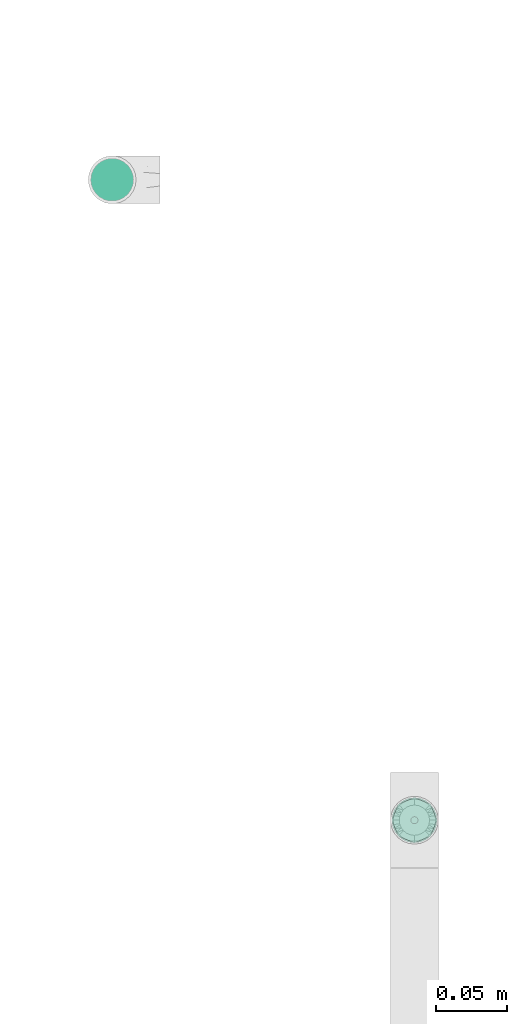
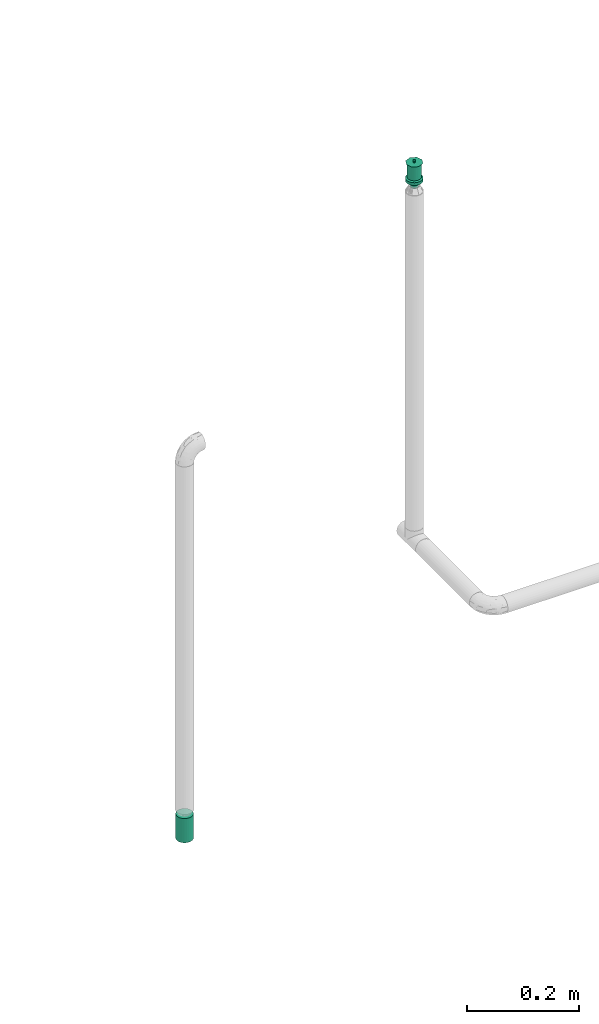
# One storey, part 27 of 94: 2 flow terminals.
"""IFC2X3 building model written with IfcOpenShell, lengths in millimetres."""

from ifc_helpers import new_model, entity, si_unit, converted_unit, derived_unit, direction, frame, origin_with_axes, place, context, subcontext, project, spatial, open_shell, surface_model, source, transform, mapped, type_object, element, save


model = new_model("IFC2X3")

# Units and contexts
model_context = context("Model", 3, precision=0.01, world=frame((0.0, 4.29681676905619e-09, 0.0)), true_north=direction((4.01073788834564e-13, 1.0)))
plan_context = context("Plan", 3, precision=0.01, world=frame((0.0, 4.29681676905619e-09, 0.0)), true_north=direction((4.01073788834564e-13, 1.0)))
body_context = subcontext(model_context, "Body", "Model", "MODEL_VIEW")
ifc_project = project(units=[converted_unit("PLANEANGLEUNIT", "DEGREE", entity("IfcPositiveLengthMeasure", 0.0174532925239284), si_unit("PLANEANGLEUNIT", "RADIAN"), dimensions=[0, 0, 0, 0, 0, 0, 0]), si_unit("AREAUNIT", "SQUARE_METRE"), si_unit("LENGTHUNIT", "METRE", prefix="MILLI"), si_unit("MASSUNIT", "GRAM", prefix="KILO"), si_unit("POWERUNIT", "WATT"), si_unit("PRESSUREUNIT", "PASCAL", prefix="KILO"), si_unit("FORCEUNIT", "NEWTON", prefix="KILO"), si_unit("ELECTRICVOLTAGEUNIT", "VOLT"), si_unit("ELECTRICCURRENTUNIT", "AMPERE"), si_unit("THERMODYNAMICTEMPERATUREUNIT", "DEGREE_CELSIUS"), si_unit("TIMEUNIT", "SECOND"), si_unit("VOLUMEUNIT", "CUBIC_METRE"), derived_unit("LINEARVELOCITYUNIT", [(si_unit("LENGTHUNIT", "METRE"), 1), (si_unit("TIMEUNIT", "SECOND"), -1)]), derived_unit("VOLUMETRICFLOWRATEUNIT", [(si_unit("VOLUMEUNIT", "CUBIC_METRE"), 1), (si_unit("TIMEUNIT", "SECOND"), -1)]), derived_unit("THERMALTRANSMITTANCEUNIT", [(si_unit("POWERUNIT", "WATT"), 1), (si_unit("THERMODYNAMICTEMPERATUREUNIT", "KELVIN"), -1), (si_unit("AREAUNIT", "SQUARE_METRE"), -1)]), derived_unit("SOUNDPRESSUREUNIT", [(si_unit("PRESSUREUNIT", "PASCAL"), 1)])], contexts=[model_context, plan_context])

# Site, building, storey
site_placement = place(None, frame((0.0, -4.29681676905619e-09, 0.0), z_axis=(0.0, 0.0, 1.0), x_axis=(1.0, 0.0, 0.0)))
site = spatial("IfcSite", under=ifc_project, at=site_placement, CompositionType="ELEMENT")
building_placement = place(site_placement, frame((0.0, 4.29681676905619e-09, 0.0), z_axis=(0.0, 0.0, 1.0), x_axis=(1.0, 0.0, 0.0)))
building = spatial("IfcBuilding", under=site, at=building_placement, Name="mc-building", CompositionType="ELEMENT")
storey_placement = place(building_placement, frame((0.0, 0.0, 210900.0), z_axis=(0.0, 0.0, 1.0), x_axis=(1.0, 0.0, 0.0)))
storey = spatial("IfcBuildingStorey", under=building, at=storey_placement, Name="Nivå F", CompositionType="ELEMENT", Elevation=210900.0)

# Flow terminals
fire_suppression_terminal_type_1 = type_object("IfcFireSuppressionTerminalType", Name="68DGR-STD-STÅENDE", PredefinedType="NOTDEFINED")
shared_shape_1 = source(origin_with_axes(), body_context, "Body", "SurfaceModel", [
    surface_model("IfcShellBasedSurfaceModel", [(3.36465, -12.55704, 51.0), (6.5, -11.25833, 51.0), (9.19239, -9.19239, 51.0), (12.55704, -3.36465, 51.0), (-11.25833, -6.5, 51.0), (11.25833, -6.5, 51.0), (-13.0, 0.0, 51.0), (0.0, -13.0, 51.0), (-6.5, -11.25833, 51.0), (-3.36465, -12.55704, 51.0), (-9.19239, -9.19239, 51.0), (-12.55704, -3.36465, 51.0), (13.0, 0.0, 51.0), (12.55704, 3.36465, 51.0), (11.25833, 6.5, 51.0), (9.19239, 9.19239, 51.0), (6.5, 11.25833, 51.0), (3.36465, 12.55704, 51.0), (0.0, 13.0, 51.0), (-3.36465, 12.55704, 51.0), (-12.55704, 3.36465, 51.0), (-9.19239, 9.19239, 51.0), (-11.25833, 6.5, 51.0), (-6.5, 11.25833, 51.0), (0.0, 13.0, 21.14766), (3.36465, 12.55704, 21.14766), (6.5, 11.25833, 21.14766), (-3.36465, 12.55704, 21.14766), (9.19239, 9.19239, 21.14766), (11.25833, 6.5, 21.14766), (12.55704, 3.36465, 21.14766), (-12.55704, 3.36465, 21.14766), (-11.25833, -6.5, 21.14766), (-9.19239, 9.19239, 21.14766), (-6.5, 11.25833, 21.14766), (-11.25833, 6.5, 21.14766), (-13.0, 0.0, 21.14766), (12.55704, -3.36465, 21.14766), (9.19239, -9.19239, 21.14766), (11.25833, -6.5, 21.14766), (6.5, -11.25833, 21.14766), (3.36465, -12.55704, 21.14766), (-6.5, -11.25833, 21.14766), (-9.19239, -9.19239, 21.14766), (-12.55704, -3.36465, 21.14766), (0.0, -13.0, 21.14766), (-3.36465, -12.55704, 21.14766), (13.0, 0.0, 21.14766), (7.24444, -1.94114, 0.1), (1.94114, -7.24444, 0.1), (3.75, -6.49519, 0.1), (5.3033, -5.3033, 0.1), (-5.3033, -5.3033, 0.1), (6.49519, -3.75, 0.1), (5.3033, 5.3033, 0.1), (0.0, -7.5, 0.1), (-3.75, -6.49519, 0.1), (-1.94114, -7.24444, 0.1), (-7.24444, -1.94114, 0.1), (-6.49519, -3.75, 0.1), (-7.24444, 1.94114, 0.1), (7.5, 0.0, 0.1), (6.49519, 3.75, 0.1), (-6.49519, 3.75, 0.1), (1.94114, 7.24444, 0.1), (0.0, 7.5, 0.1), (3.75, 6.49519, 0.1), (-7.5, 0.0, 0.1), (-5.3033, 5.3033, 0.1), (-1.94114, 7.24444, 0.1), (-3.75, 6.49519, 0.1), (7.24444, 1.94114, 0.1), (1.94114, 7.24444, -0.1), (-6.49519, 3.75, -0.1), (0.0, 7.5, -0.1), (5.3033, 5.3033, -0.1), (3.75, 6.49519, -0.1), (6.49519, 3.75, -0.1), (7.24444, 1.94114, -0.1), (-1.94114, 7.24444, -0.1), (-5.3033, 5.3033, -0.1), (-3.75, 6.49519, -0.1), (-7.24444, 1.94114, -0.1), (-7.24444, -1.94114, -0.1), (-7.5, 0.0, -0.1), (7.5, 0.0, -0.1), (7.24444, -1.94114, -0.1), (-5.3033, -5.3033, -0.1), (1.94114, -7.24444, -0.1), (6.49519, -3.75, -0.1), (5.3033, -5.3033, -0.1), (3.75, -6.49519, -0.1), (-6.49519, -3.75, -0.1), (-3.75, -6.49519, -0.1), (0.0, -7.5, -0.1), (-1.94114, -7.24444, -0.1), (0.0, -2.5, 51.0), (-2.5, 0.0, 51.0), (0.0, 2.5, 51.0), (2.5, 0.0, 51.0), (0.0, -16.0, 53.0), (11.31371, -11.31371, 53.0), (-11.31371, -11.31371, 53.0), (-16.0, 0.0, 53.0), (16.0, 0.0, 53.0), (11.31371, 11.31371, 53.0), (0.0, 16.0, 53.0), (-11.31371, 11.31371, 53.0), (1.25, -2.16506, 57.0), (0.0, -2.5, 57.0), (0.64705, -2.41481, 57.0), (2.41481, -0.64705, 57.0), (1.76777, -1.76777, 57.0), (-2.41481, -0.64705, 57.0), (-2.5, 0.0, 57.0), (2.16506, -1.25, 57.0), (-1.25, -2.16506, 57.0), (-0.64705, -2.41481, 57.0), (-1.76777, -1.76777, 57.0), (-2.16506, -1.25, 57.0), (2.5, 0.0, 57.0), (2.41481, 0.64705, 57.0), (2.16506, 1.25, 57.0), (1.76777, 1.76777, 57.0), (0.64705, 2.41481, 57.0), (1.25, 2.16506, 57.0), (-1.76777, 1.76777, 57.0), (0.0, 2.5, 57.0), (-2.16506, 1.25, 57.0), (-2.41481, 0.64705, 57.0), (-0.64705, 2.41481, 57.0), (-1.25, 2.16506, 57.0), (1.25, 2.16506, 51.0), (1.76777, 1.76777, 51.0), (1.15, 1.99186, 51.0), (0.59528, 2.22163, 51.0), (0.64705, 2.41481, 51.0), (0.0, 2.3, 51.0), (1.62635, 1.62635, 51.0), (2.41481, 0.64705, 51.0), (2.3, 0.0, 51.0), (2.22163, 0.59528, 51.0), (2.16506, 1.25, 51.0), (1.99186, 1.15, 51.0), (-0.59528, 2.22163, 51.0), (-0.64705, 2.41481, 51.0), (-1.15, 1.99186, 51.0), (-1.76777, 1.76777, 51.0), (-1.25, 2.16506, 51.0), (-1.62635, 1.62635, 51.0), (-1.99186, 1.15, 51.0), (-2.16506, 1.25, 51.0), (-2.22163, 0.59528, 51.0), (-2.41481, 0.64705, 51.0), (-2.3, 0.0, 51.0), (2.41481, -0.64705, 51.0), (2.22163, -0.59528, 51.0), (1.99186, -1.15, 51.0), (2.16506, -1.25, 51.0), (1.62635, -1.62635, 51.0), (1.76777, -1.76777, 51.0), (1.25, -2.16506, 51.0), (1.15, -1.99186, 51.0), (0.59528, -2.22163, 51.0), (0.64705, -2.41481, 51.0), (0.0, -2.3, 51.0), (-2.16506, -1.25, 51.0), (-1.99186, -1.15, 51.0), (-1.76777, -1.76777, 51.0), (-1.62635, -1.62635, 51.0), (-2.41481, -0.64705, 51.0), (-2.22163, -0.59528, 51.0), (-0.59528, -2.22163, 51.0), (-0.64705, -2.41481, 51.0), (-1.15, -1.99186, 51.0), (-1.25, -2.16506, 51.0), (1.62635, -1.62635, 56.8), (1.15, -1.99186, 56.8), (0.59528, -2.22163, 56.8), (0.0, -2.3, 56.8), (2.22163, 0.59528, 56.8), (1.99186, -1.15, 56.8), (2.22163, -0.59528, 56.8), (-0.59528, -2.22163, 56.8), (-1.15, -1.99186, 56.8), (-1.62635, -1.62635, 56.8), (-1.99186, -1.15, 56.8), (-2.22163, -0.59528, 56.8), (-1.99186, 1.15, 56.8), (2.3, 0.0, 56.8), (1.62635, 1.62635, 56.8), (1.99186, 1.15, 56.8), (1.15, 1.99186, 56.8), (0.0, 2.3, 56.8), (0.59528, 2.22163, 56.8), (-2.22163, 0.59528, 56.8), (-2.3, 0.0, 56.8), (-1.15, 1.99186, 56.8), (-0.59528, 2.22163, 56.8), (-1.62635, 1.62635, 56.8), (4.1411, -15.45481, 19.0), (8.0, -13.85641, 19.0), (11.31371, -11.31371, 19.0), (-8.0, -13.85641, 19.0), (15.45481, -4.1411, 19.0), (16.0, 0.0, 19.0), (13.85641, -8.0, 19.0), (0.0, -16.0, 19.0), (-4.1411, -15.45481, 19.0), (-13.85641, -8.0, 19.0), (-11.31371, -11.31371, 19.0), (-15.45481, -4.1411, 19.0), (15.45481, 4.1411, 19.0), (13.85641, 8.0, 19.0), (11.31371, 11.31371, 19.0), (-4.1411, 15.45481, 19.0), (8.0, 13.85641, 19.0), (4.1411, 15.45481, 19.0), (0.0, 16.0, 19.0), (-13.85641, 8.0, 19.0), (-15.45481, 4.1411, 19.0), (-16.0, 0.0, 19.0), (-11.31371, 11.31371, 19.0), (-8.0, 13.85641, 19.0), (0.0, 16.0, 13.0), (4.1411, 15.45481, 13.0), (8.0, 13.85641, 13.0), (-4.1411, 15.45481, 13.0), (11.31371, 11.31371, 13.0), (13.85641, 8.0, 13.0), (15.45481, 4.1411, 13.0), (-15.45481, -4.1411, 13.0), (-11.31371, 11.31371, 13.0), (-8.0, 13.85641, 13.0), (-13.85641, 8.0, 13.0), (-15.45481, 4.1411, 13.0), (-16.0, 0.0, 13.0), (4.1411, -15.45481, 13.0), (16.0, 0.0, 13.0), (15.45481, -4.1411, 13.0), (13.85641, -8.0, 13.0), (11.31371, -11.31371, 13.0), (8.0, -13.85641, 13.0), (-8.0, -13.85641, 13.0), (-13.85641, -8.0, 13.0), (-11.31371, -11.31371, 13.0), (0.0, -16.0, 13.0), (-4.1411, -15.45481, 13.0), (7.24444, -1.94114, 13.0), (1.94114, -7.24444, 13.0), (3.75, -6.49519, 13.0), (5.3033, -5.3033, 13.0), (-5.3033, -5.3033, 13.0), (6.49519, -3.75, 13.0), (5.3033, 5.3033, 13.0), (0.0, -7.5, 13.0), (-3.75, -6.49519, 13.0), (-1.94114, -7.24444, 13.0), (-7.24444, -1.94114, 13.0), (-6.49519, -3.75, 13.0), (-7.24444, 1.94114, 13.0), (7.5, 0.0, 13.0), (6.49519, 3.75, 13.0), (-6.49519, 3.75, 13.0), (1.94114, 7.24444, 13.0), (0.0, 7.5, 13.0), (3.75, 6.49519, 13.0), (-7.5, 0.0, 13.0), (-5.3033, 5.3033, 13.0), (-1.94114, 7.24444, 13.0), (-3.75, 6.49519, 13.0), (7.24444, 1.94114, 13.0), (3.75, 6.49519, 0.0), (5.3033, 5.3033, 0.0), (3.65, 6.32199, 0.0), (1.88938, 7.05126, 0.0), (0.0, 7.3, 0.0), (1.94114, 7.24444, 0.0), (0.0, 7.5, 0.0), (5.16188, 5.16188, 0.0), (7.24444, 1.94114, 0.0), (7.3, 0.0, 0.0), (7.05126, 1.88938, 0.0), (7.5, 0.0, 0.0), (6.49519, 3.75, 0.0), (6.32199, 3.65, 0.0), (-1.88938, 7.05126, 0.0), (-1.94114, 7.24444, 0.0), (-3.65, 6.32199, 0.0), (-5.3033, 5.3033, 0.0), (-3.75, 6.49519, 0.0), (-5.16188, 5.16188, 0.0), (-6.32199, 3.65, 0.0), (-6.49519, 3.75, 0.0), (-7.05126, 1.88938, 0.0), (-7.24444, 1.94114, 0.0), (-7.3, 0.0, 0.0), (-7.5, 0.0, 0.0), (7.24444, -1.94114, 0.0), (7.05126, -1.88938, 0.0), (6.32199, -3.65, 0.0), (6.49519, -3.75, 0.0), (5.16188, -5.16188, 0.0), (5.3033, -5.3033, 0.0), (3.75, -6.49519, 0.0), (3.65, -6.32199, 0.0), (1.88938, -7.05126, 0.0), (1.94114, -7.24444, 0.0), (0.0, -7.3, 0.0), (0.0, -7.5, 0.0), (-6.49519, -3.75, 0.0), (-6.32199, -3.65, 0.0), (-5.3033, -5.3033, 0.0), (-5.16188, -5.16188, 0.0), (-7.24444, -1.94114, 0.0), (-7.05126, -1.88938, 0.0), (-1.88938, -7.05126, 0.0), (-1.94114, -7.24444, 0.0), (-3.65, -6.32199, 0.0), (-3.75, -6.49519, 0.0), (1.88938, -7.05126, 12.8), (0.0, -7.3, 12.8), (3.65, -6.32199, 12.8), (5.16188, -5.16188, 12.8), (6.32199, -3.65, 12.8), (7.05126, 1.88938, 12.8), (7.05126, -1.88938, 12.8), (-5.16188, -5.16188, 12.8), (-1.88938, -7.05126, 12.8), (-3.65, -6.32199, 12.8), (-6.32199, -3.65, 12.8), (-7.05126, -1.88938, 12.8), (0.0, 7.3, 12.8), (7.3, 0.0, 12.8), (6.32199, 3.65, 12.8), (5.16188, 5.16188, 12.8), (3.65, 6.32199, 12.8), (1.88938, 7.05126, 12.8), (-6.32199, 3.65, 12.8), (-7.05126, 1.88938, 12.8), (-7.3, 0.0, 12.8), (-3.65, 6.32199, 12.8), (-1.88938, 7.05126, 12.8), (-5.16188, 5.16188, 12.8)], [open_shell([[[0, 1, 2]], [[0, 2, 3]], [[0, 3, 4]], [[3, 2, 5]], [[6, 4, 3]], [[7, 8, 9]], [[7, 0, 8]], [[8, 4, 10]], [[0, 4, 8]], [[4, 6, 11]], [[6, 3, 12]], [[13, 14, 15]], [[6, 13, 15]], [[16, 17, 18]], [[15, 16, 19]], [[18, 19, 16]], [[20, 21, 22]], [[20, 6, 15]], [[21, 19, 23]], [[19, 21, 20]], [[15, 19, 20]], [[13, 6, 12]], [[24, 25, 26]], [[27, 24, 26]], [[28, 29, 30]], [[26, 28, 31]], [[28, 32, 31]], [[27, 33, 34]], [[33, 27, 31]], [[33, 31, 35]], [[27, 26, 31]], [[31, 32, 36]], [[32, 28, 30]], [[32, 30, 37]], [[38, 37, 39]], [[38, 40, 41]], [[38, 41, 37]], [[32, 37, 41]], [[32, 42, 43]], [[44, 36, 32]], [[42, 45, 46]], [[42, 32, 41]], [[45, 42, 41]], [[30, 47, 37]], [[4, 32, 43]], [[8, 42, 46]], [[43, 42, 10]], [[9, 46, 45]], [[36, 11, 6]], [[11, 36, 44]], [[11, 44, 4]], [[44, 32, 4]], [[43, 10, 4]], [[8, 10, 42]], [[46, 9, 8]], [[45, 7, 9]], [[0, 41, 40]], [[38, 1, 40]], [[5, 39, 37]], [[38, 39, 2]], [[3, 37, 47]], [[41, 0, 7]], [[40, 1, 0]], [[38, 2, 1]], [[39, 5, 2]], [[3, 5, 37]], [[47, 12, 3]], [[41, 7, 45]], [[30, 13, 47]], [[29, 14, 30]], [[25, 24, 17]], [[15, 29, 28]], [[30, 14, 13]], [[13, 12, 47]], [[16, 26, 17]], [[16, 15, 28]], [[26, 25, 17]], [[15, 14, 29]], [[28, 26, 16]], [[24, 18, 17]], [[19, 27, 34]], [[33, 23, 34]], [[22, 35, 31]], [[33, 35, 21]], [[20, 31, 36]], [[27, 19, 18]], [[34, 23, 19]], [[33, 21, 23]], [[35, 22, 21]], [[20, 22, 31]], [[36, 6, 20]], [[27, 18, 24]], [[48, 49, 50]], [[48, 50, 51]], [[49, 48, 52]], [[48, 51, 53]], [[54, 52, 48]], [[55, 56, 57]], [[56, 55, 52]], [[52, 58, 59]], [[52, 55, 49]], [[52, 60, 58]], [[54, 48, 61]], [[62, 54, 61]], [[54, 63, 52]], [[64, 65, 54]], [[64, 54, 66]], [[63, 54, 65]], [[63, 60, 52]], [[67, 58, 60]], [[68, 69, 70]], [[69, 68, 63]], [[69, 63, 65]], [[71, 62, 61]], [[72, 73, 74]], [[75, 72, 76]], [[75, 77, 78]], [[72, 75, 73]], [[78, 73, 75]], [[79, 80, 81]], [[80, 79, 73]], [[74, 73, 79]], [[78, 82, 73]], [[82, 83, 84]], [[82, 78, 85]], [[86, 87, 85]], [[88, 86, 89]], [[90, 91, 88]], [[90, 88, 89]], [[87, 86, 88]], [[83, 87, 92]], [[83, 85, 87]], [[93, 94, 95]], [[94, 93, 87]], [[88, 94, 87]], [[85, 83, 82]], [[83, 58, 84]], [[92, 59, 83]], [[56, 87, 93]], [[92, 87, 52]], [[57, 93, 95]], [[83, 59, 58]], [[58, 67, 84]], [[57, 56, 93]], [[52, 87, 56]], [[52, 59, 92]], [[55, 57, 95]], [[95, 94, 55]], [[88, 49, 94]], [[91, 50, 88]], [[53, 90, 89]], [[91, 90, 51]], [[48, 89, 86]], [[91, 51, 50]], [[50, 49, 88]], [[61, 48, 86]], [[53, 89, 48]], [[53, 51, 90]], [[85, 61, 86]], [[94, 49, 55]], [[78, 71, 85]], [[77, 62, 78]], [[66, 75, 76]], [[77, 75, 54]], [[64, 76, 72]], [[78, 62, 71]], [[71, 61, 85]], [[64, 66, 76]], [[54, 75, 66]], [[54, 62, 77]], [[65, 64, 72]], [[72, 74, 65]], [[79, 69, 74]], [[81, 70, 79]], [[63, 80, 73]], [[81, 80, 68]], [[60, 73, 82]], [[81, 68, 70]], [[70, 69, 79]], [[67, 60, 82]], [[63, 73, 60]], [[63, 68, 80]], [[84, 67, 82]], [[74, 69, 65]], [[96, 97, 98]], [[98, 99, 96]], [[100, 101, 102]], [[103, 102, 101]], [[101, 104, 103]], [[104, 105, 106]], [[107, 103, 106]], [[106, 103, 104]], [[99, 98, 105]], [[105, 104, 99]], [[98, 106, 105]], [[98, 107, 106]], [[107, 98, 97]], [[103, 107, 97]], [[97, 96, 102]], [[102, 103, 97]], [[96, 100, 102]], [[96, 101, 100]], [[101, 96, 99]], [[104, 101, 99]], [[108, 109, 110]], [[111, 108, 112]], [[113, 108, 114]], [[111, 112, 115]], [[108, 111, 114]], [[109, 116, 117]], [[116, 109, 118]], [[118, 113, 119]], [[118, 109, 108]], [[108, 113, 118]], [[111, 120, 114]], [[121, 122, 123]], [[114, 121, 123]], [[114, 123, 124]], [[124, 123, 125]], [[126, 124, 127]], [[124, 128, 129]], [[129, 114, 124]], [[126, 130, 131]], [[128, 124, 126]], [[130, 126, 127]], [[121, 114, 120]], [[132, 133, 134]], [[132, 134, 135]], [[136, 135, 137]], [[135, 136, 132]], [[136, 137, 98]], [[134, 133, 138]], [[139, 140, 141]], [[140, 139, 99]], [[139, 141, 142]], [[138, 142, 143]], [[142, 138, 133]], [[143, 142, 141]], [[98, 144, 145]], [[98, 137, 144]], [[145, 144, 146]], [[147, 148, 149]], [[146, 148, 145]], [[149, 148, 146]], [[150, 151, 147]], [[151, 150, 152]], [[150, 147, 149]], [[153, 152, 154]], [[152, 153, 151]], [[153, 154, 97]], [[99, 155, 156]], [[156, 155, 157]], [[157, 158, 159]], [[158, 157, 155]], [[159, 158, 160]], [[160, 161, 162]], [[162, 161, 163]], [[163, 164, 165]], [[164, 163, 161]], [[165, 164, 96]], [[162, 159, 160]], [[166, 167, 168]], [[168, 167, 169]], [[167, 166, 170]], [[97, 171, 170]], [[170, 171, 167]], [[97, 154, 171]], [[172, 96, 173]], [[172, 173, 174]], [[169, 175, 168]], [[175, 169, 174]], [[175, 174, 173]], [[165, 96, 172]], [[156, 140, 99]], [[170, 113, 97]], [[166, 119, 170]], [[116, 168, 175]], [[166, 168, 118]], [[117, 175, 173]], [[170, 119, 113]], [[113, 114, 97]], [[117, 116, 175]], [[118, 168, 116]], [[118, 119, 166]], [[109, 117, 173]], [[173, 96, 109]], [[164, 110, 96]], [[161, 108, 164]], [[115, 160, 158]], [[161, 160, 112]], [[111, 158, 155]], [[161, 112, 108]], [[108, 110, 164]], [[120, 111, 155]], [[115, 158, 111]], [[115, 112, 160]], [[99, 120, 155]], [[96, 110, 109]], [[139, 121, 99]], [[142, 122, 139]], [[125, 133, 132]], [[142, 133, 123]], [[124, 132, 136]], [[139, 122, 121]], [[121, 120, 99]], [[124, 125, 132]], [[123, 133, 125]], [[123, 122, 142]], [[127, 124, 136]], [[136, 98, 127]], [[145, 130, 98]], [[148, 131, 145]], [[128, 147, 151]], [[148, 147, 126]], [[129, 151, 153]], [[148, 126, 131]], [[131, 130, 145]], [[114, 129, 153]], [[128, 151, 129]], [[128, 126, 147]], [[97, 114, 153]], [[98, 130, 127]], [[176, 177, 178]], [[176, 178, 179]], [[180, 176, 179]], [[181, 176, 182]], [[180, 182, 176]], [[183, 184, 179]], [[185, 179, 184]], [[186, 187, 185]], [[185, 187, 188]], [[179, 185, 188]], [[189, 182, 180]], [[190, 191, 180]], [[192, 190, 180]], [[193, 194, 192]], [[180, 193, 192]], [[188, 193, 180]], [[195, 188, 196]], [[196, 188, 187]], [[197, 198, 199]], [[188, 199, 198]], [[188, 198, 193]], [[180, 179, 188]], [[154, 187, 171]], [[171, 186, 167]], [[174, 169, 184]], [[185, 169, 167]], [[172, 174, 183]], [[187, 186, 171]], [[154, 196, 187]], [[174, 184, 183]], [[184, 169, 185]], [[167, 186, 185]], [[172, 183, 179]], [[179, 165, 172]], [[165, 178, 163]], [[163, 177, 162]], [[157, 159, 181]], [[176, 159, 162]], [[156, 157, 182]], [[177, 176, 162]], [[163, 178, 177]], [[156, 182, 189]], [[182, 157, 181]], [[159, 176, 181]], [[156, 189, 140]], [[179, 178, 165]], [[140, 180, 141]], [[141, 191, 143]], [[134, 138, 192]], [[190, 138, 143]], [[135, 134, 194]], [[180, 191, 141]], [[140, 189, 180]], [[134, 192, 194]], [[192, 138, 190]], [[143, 191, 190]], [[135, 194, 193]], [[193, 137, 135]], [[137, 198, 144]], [[144, 197, 146]], [[150, 149, 188]], [[199, 149, 146]], [[152, 150, 195]], [[197, 199, 146]], [[144, 198, 197]], [[152, 195, 196]], [[195, 150, 188]], [[149, 199, 188]], [[152, 196, 154]], [[193, 198, 137]], [[200, 201, 202]], [[203, 200, 202]], [[204, 205, 202]], [[204, 202, 206]], [[203, 202, 205]], [[207, 203, 208]], [[207, 200, 203]], [[203, 209, 210]], [[209, 203, 211]], [[205, 211, 203]], [[205, 212, 211]], [[212, 213, 214]], [[215, 212, 214]], [[216, 217, 218]], [[214, 216, 215]], [[218, 215, 216]], [[211, 219, 220]], [[221, 211, 220]], [[222, 215, 223]], [[215, 222, 219]], [[219, 211, 215]], [[211, 212, 215]], [[224, 225, 226]], [[227, 224, 226]], [[228, 229, 230]], [[227, 226, 228]], [[227, 228, 231]], [[227, 232, 233]], [[232, 227, 234]], [[234, 231, 235]], [[231, 234, 227]], [[235, 231, 236]], [[228, 230, 231]], [[237, 238, 239]], [[237, 239, 240]], [[241, 242, 237]], [[241, 237, 240]], [[238, 237, 243]], [[244, 243, 245]], [[243, 244, 231]], [[243, 246, 247]], [[243, 231, 238]], [[237, 246, 243]], [[238, 231, 230]], [[231, 211, 236]], [[244, 209, 231]], [[203, 245, 243]], [[244, 245, 210]], [[208, 243, 247]], [[231, 209, 211]], [[211, 221, 236]], [[208, 203, 243]], [[210, 245, 203]], [[210, 209, 244]], [[207, 208, 247]], [[247, 246, 207]], [[237, 200, 246]], [[242, 201, 237]], [[206, 241, 240]], [[242, 241, 202]], [[204, 240, 239]], [[242, 202, 201]], [[201, 200, 237]], [[205, 204, 239]], [[206, 240, 204]], [[206, 202, 241]], [[238, 205, 239]], [[246, 200, 207]], [[230, 212, 238]], [[229, 213, 230]], [[216, 228, 226]], [[229, 228, 214]], [[217, 226, 225]], [[230, 213, 212]], [[212, 205, 238]], [[217, 216, 226]], [[214, 228, 216]], [[214, 213, 229]], [[218, 217, 225]], [[225, 224, 218]], [[227, 215, 224]], [[233, 223, 227]], [[219, 232, 234]], [[233, 232, 222]], [[220, 234, 235]], [[233, 222, 223]], [[223, 215, 227]], [[221, 220, 235]], [[219, 234, 220]], [[219, 222, 232]], [[236, 221, 235]], [[224, 215, 218]], [[248, 249, 250]], [[248, 250, 251]], [[249, 248, 252]], [[248, 251, 253]], [[254, 252, 248]], [[255, 256, 257]], [[256, 255, 252]], [[252, 258, 259]], [[252, 255, 249]], [[252, 260, 258]], [[254, 248, 261]], [[262, 254, 261]], [[254, 263, 252]], [[264, 265, 254]], [[264, 254, 266]], [[263, 254, 265]], [[263, 260, 252]], [[267, 258, 260]], [[268, 269, 270]], [[269, 268, 263]], [[269, 263, 265]], [[271, 262, 261]], [[272, 273, 274]], [[272, 274, 275]], [[276, 277, 275]], [[277, 276, 278]], [[275, 277, 272]], [[274, 273, 279]], [[280, 281, 282]], [[281, 280, 283]], [[280, 282, 284]], [[279, 284, 285]], [[284, 279, 273]], [[285, 284, 282]], [[278, 286, 287]], [[287, 286, 288]], [[289, 290, 291]], [[288, 290, 287]], [[288, 291, 290]], [[278, 276, 286]], [[292, 293, 289]], [[293, 292, 294]], [[292, 289, 291]], [[295, 294, 296]], [[294, 295, 293]], [[295, 296, 297]], [[283, 298, 299]], [[299, 298, 300]], [[300, 301, 302]], [[301, 300, 298]], [[302, 301, 303]], [[303, 304, 305]], [[305, 304, 306]], [[306, 307, 308]], [[307, 306, 304]], [[308, 307, 309]], [[305, 302, 303]], [[310, 311, 312]], [[312, 311, 313]], [[311, 310, 314]], [[297, 315, 314]], [[314, 315, 311]], [[297, 296, 315]], [[316, 309, 317]], [[316, 317, 318]], [[313, 319, 312]], [[313, 318, 319]], [[319, 318, 317]], [[308, 309, 316]], [[299, 281, 283]], [[314, 258, 297]], [[310, 259, 314]], [[256, 312, 319]], [[310, 312, 252]], [[257, 319, 317]], [[314, 259, 258]], [[258, 267, 297]], [[257, 256, 319]], [[252, 312, 256]], [[252, 259, 310]], [[255, 257, 317]], [[317, 309, 255]], [[307, 249, 309]], [[304, 250, 307]], [[253, 303, 301]], [[304, 303, 251]], [[248, 301, 298]], [[304, 251, 250]], [[250, 249, 307]], [[261, 248, 298]], [[253, 301, 248]], [[253, 251, 303]], [[283, 261, 298]], [[309, 249, 255]], [[280, 271, 283]], [[284, 262, 280]], [[266, 273, 272]], [[284, 273, 254]], [[264, 272, 277]], [[280, 262, 271]], [[271, 261, 283]], [[264, 266, 272]], [[254, 273, 266]], [[254, 262, 284]], [[265, 264, 277]], [[277, 278, 265]], [[287, 269, 278]], [[290, 270, 287]], [[263, 289, 293]], [[290, 289, 268]], [[260, 293, 295]], [[290, 268, 270]], [[270, 269, 287]], [[267, 260, 295]], [[263, 293, 260]], [[263, 268, 289]], [[297, 267, 295]], [[278, 269, 265]], [[320, 321, 322]], [[323, 322, 324]], [[325, 326, 322]], [[324, 322, 326]], [[322, 327, 325]], [[328, 329, 321]], [[327, 321, 329]], [[330, 331, 327]], [[322, 321, 327]], [[331, 332, 327]], [[326, 325, 333]], [[334, 325, 332]], [[335, 334, 336]], [[332, 337, 336]], [[334, 332, 336]], [[331, 338, 332]], [[339, 338, 340]], [[340, 338, 331]], [[341, 342, 343]], [[332, 338, 343]], [[332, 343, 342]], [[332, 325, 327]], [[296, 331, 315]], [[315, 330, 311]], [[318, 313, 329]], [[327, 313, 311]], [[316, 318, 328]], [[331, 330, 315]], [[296, 340, 331]], [[318, 329, 328]], [[329, 313, 327]], [[311, 330, 327]], [[316, 328, 321]], [[321, 308, 316]], [[308, 320, 306]], [[306, 322, 305]], [[300, 302, 324]], [[323, 302, 305]], [[299, 300, 326]], [[322, 323, 305]], [[306, 320, 322]], [[299, 326, 333]], [[326, 300, 324]], [[302, 323, 324]], [[299, 333, 281]], [[321, 320, 308]], [[281, 325, 282]], [[282, 334, 285]], [[274, 279, 336]], [[335, 279, 285]], [[275, 274, 337]], [[325, 334, 282]], [[281, 333, 325]], [[274, 336, 337]], [[336, 279, 335]], [[285, 334, 335]], [[275, 337, 332]], [[332, 276, 275]], [[276, 342, 286]], [[286, 341, 288]], [[292, 291, 338]], [[343, 291, 288]], [[294, 292, 339]], [[341, 343, 288]], [[286, 342, 341]], [[294, 339, 340]], [[339, 292, 338]], [[291, 343, 338]], [[294, 340, 296]], [[332, 342, 276]]])]),
])
flow_terminal_1_placement = place(storey_placement, frame((716213.48481, 438166.03424, 4367.0), z_axis=(0.0, 0.0, 1.0), x_axis=(1.0, 0.0, 0.0)))
element("IfcFlowTerminal", 1, at=flow_terminal_1_placement, inside=storey, type_object=fire_suppression_terminal_type_1, Name="68DGR-STD-STÅENDE", context=body_context, shape_type="MappedRepresentation", body=[
    mapped(shared_shape_1, transform((0.0, 0.0, 0.0), scale=1.0)),
])
fire_suppression_terminal_type_2 = type_object("IfcFireSuppressionTerminalType", Name="SP-15-K80-68DGR-STD-HIMLING", PredefinedType="NOTDEFINED")
shared_shape_2 = source(origin_with_axes(), body_context, "Body", "SurfaceModel", [
    surface_model("IfcShellBasedSurfaceModel", [(4.1411, -15.45481, 53.0), (8.0, -13.85641, 53.0), (11.31371, -11.31371, 53.0), (-8.0, -13.85641, 53.0), (15.45481, -4.1411, 53.0), (16.0, 0.0, 53.0), (13.85641, -8.0, 53.0), (0.0, -16.0, 53.0), (-4.1411, -15.45481, 53.0), (-13.85641, -8.0, 53.0), (-11.31371, -11.31371, 53.0), (-15.45481, -4.1411, 53.0), (15.45481, 4.1411, 53.0), (13.85641, 8.0, 53.0), (11.31371, 11.31371, 53.0), (-4.1411, 15.45481, 53.0), (8.0, 13.85641, 53.0), (4.1411, 15.45481, 53.0), (0.0, 16.0, 53.0), (-13.85641, 8.0, 53.0), (-15.45481, 4.1411, 53.0), (-16.0, 0.0, 53.0), (-11.31371, 11.31371, 53.0), (-8.0, 13.85641, 53.0), (0.0, 16.0, 0.0), (4.1411, 15.45481, 0.0), (8.0, 13.85641, 0.0), (-4.1411, 15.45481, 0.0), (11.31371, 11.31371, 0.0), (13.85641, 8.0, 0.0), (15.45481, 4.1411, 0.0), (-15.45481, -4.1411, 0.0), (-11.31371, 11.31371, 0.0), (-8.0, 13.85641, 0.0), (-13.85641, 8.0, 0.0), (-15.45481, 4.1411, 0.0), (-16.0, 0.0, 0.0), (4.1411, -15.45481, 0.0), (16.0, 0.0, 0.0), (15.45481, -4.1411, 0.0), (13.85641, -8.0, 0.0), (11.31371, -11.31371, 0.0), (8.0, -13.85641, 0.0), (-8.0, -13.85641, 0.0), (-13.85641, -8.0, 0.0), (-11.31371, -11.31371, 0.0), (0.0, -16.0, 0.0), (-4.1411, -15.45481, 0.0)], [open_shell([[[0, 1, 2]], [[3, 0, 2]], [[4, 5, 2]], [[4, 2, 6]], [[3, 2, 5]], [[7, 3, 8]], [[7, 0, 3]], [[3, 9, 10]], [[9, 3, 11]], [[5, 11, 3]], [[5, 12, 11]], [[12, 13, 14]], [[15, 12, 14]], [[16, 17, 18]], [[14, 16, 15]], [[18, 15, 16]], [[11, 19, 20]], [[21, 11, 20]], [[22, 15, 23]], [[15, 22, 19]], [[19, 11, 15]], [[11, 12, 15]], [[24, 25, 26]], [[27, 24, 26]], [[28, 29, 30]], [[27, 26, 28]], [[27, 28, 31]], [[27, 32, 33]], [[32, 27, 34]], [[34, 31, 35]], [[31, 34, 27]], [[35, 31, 36]], [[28, 30, 31]], [[37, 38, 39]], [[37, 39, 40]], [[41, 42, 37]], [[41, 37, 40]], [[38, 37, 43]], [[44, 43, 45]], [[43, 44, 31]], [[43, 46, 47]], [[43, 31, 38]], [[37, 46, 43]], [[38, 31, 30]], [[11, 31, 44]], [[45, 9, 44]], [[3, 43, 47]], [[45, 43, 10]], [[8, 47, 46]], [[31, 21, 36]], [[31, 11, 21]], [[44, 9, 11]], [[45, 10, 9]], [[3, 10, 43]], [[47, 8, 3]], [[46, 7, 8]], [[0, 37, 42]], [[41, 1, 42]], [[6, 40, 39]], [[41, 40, 2]], [[4, 39, 38]], [[37, 0, 7]], [[42, 1, 0]], [[41, 2, 1]], [[40, 6, 2]], [[4, 6, 39]], [[38, 5, 4]], [[37, 7, 46]], [[12, 38, 30]], [[13, 30, 29]], [[16, 26, 25]], [[17, 25, 24]], [[30, 13, 12]], [[12, 5, 38]], [[28, 14, 13]], [[28, 26, 14]], [[14, 26, 16]], [[25, 17, 16]], [[28, 13, 29]], [[24, 18, 17]], [[15, 27, 33]], [[32, 23, 33]], [[19, 34, 35]], [[32, 34, 22]], [[20, 35, 36]], [[27, 15, 18]], [[33, 23, 15]], [[32, 22, 23]], [[34, 19, 22]], [[20, 19, 35]], [[36, 21, 20]], [[27, 18, 24]]])]),
])
flow_terminal_2_placement = place(storey_placement, frame((716000.0, 438618.37443, 2797.53873999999), z_axis=(0.0, 0.0, -1.0), x_axis=(-1.0, 0.0, 0.0)))
element("IfcFlowTerminal", 2, at=flow_terminal_2_placement, inside=storey, type_object=fire_suppression_terminal_type_2, Name="SP-15-K80-68DGR-STD-HIMLING", context=body_context, shape_type="MappedRepresentation", body=[
    mapped(shared_shape_2, transform((0.0, 0.0, 0.0), scale=1.0)),
])

save(model, "model.ifc")
